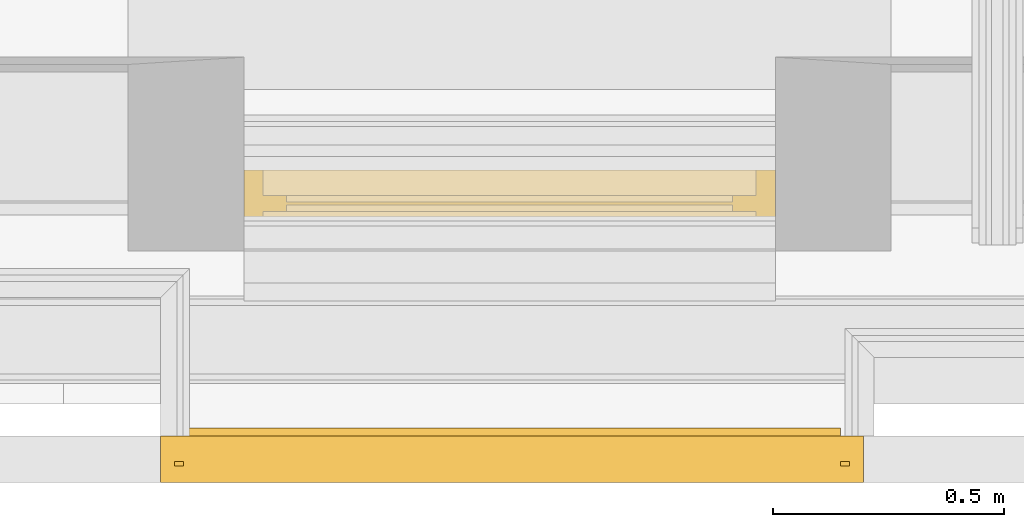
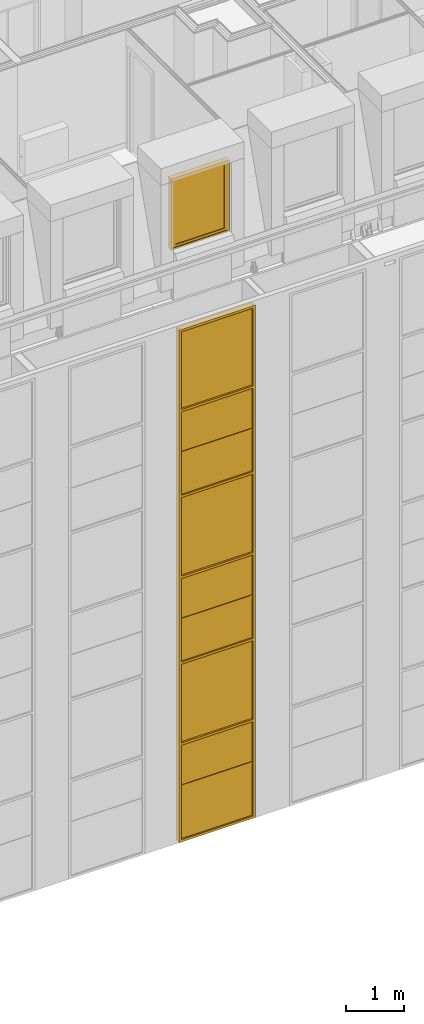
# One storey, part 99 of 169: 1 curtain wall, 1 window.
"""IFC2X3 building model written with IfcOpenShell, lengths in metres."""

from ifc_helpers import new_model, entity, si_unit, converted_unit, derived_unit, money_unit, direction, frame, origin_with_axes, place, context, subcontext, project, spatial, faceted_brep, material, type_object, element, save


model = new_model("IFC2X3")

# Units and contexts
model_context = context("Model", 3, precision=1e-05, world=origin_with_axes(), true_north=direction((0.0, 1.0)))
body_context = subcontext(model_context, "Body", "Model", "MODEL_VIEW", scale=1.0)
ifc_project = project(units=[si_unit("LENGTHUNIT", "METRE"), si_unit("AREAUNIT", "SQUARE_METRE"), si_unit("VOLUMEUNIT", "CUBIC_METRE"), si_unit("ABSORBEDDOSEUNIT", "GRAY"), si_unit("AMOUNTOFSUBSTANCEUNIT", "MOLE"), si_unit("DOSEEQUIVALENTUNIT", "SIEVERT"), si_unit("ELECTRICCAPACITANCEUNIT", "FARAD"), si_unit("ELECTRICCHARGEUNIT", "COULOMB"), si_unit("ELECTRICCONDUCTANCEUNIT", "SIEMENS"), si_unit("ELECTRICCURRENTUNIT", "AMPERE"), si_unit("ELECTRICRESISTANCEUNIT", "OHM"), si_unit("ELECTRICVOLTAGEUNIT", "VOLT"), si_unit("ENERGYUNIT", "JOULE"), si_unit("FORCEUNIT", "NEWTON"), si_unit("FREQUENCYUNIT", "HERTZ"), si_unit("ILLUMINANCEUNIT", "LUX"), si_unit("INDUCTANCEUNIT", "HENRY"), si_unit("LUMINOUSFLUXUNIT", "LUMEN"), si_unit("LUMINOUSINTENSITYUNIT", "CANDELA"), si_unit("MAGNETICFLUXDENSITYUNIT", "TESLA"), si_unit("MAGNETICFLUXUNIT", "WEBER"), si_unit("MASSUNIT", "GRAM"), converted_unit("PLANEANGLEUNIT", "degree", entity("IfcReal", 0.0174532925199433), si_unit("PLANEANGLEUNIT", "RADIAN"), dimensions=[0, 0, 0, 0, 0, 0, 0]), si_unit("POWERUNIT", "WATT"), si_unit("PRESSUREUNIT", "PASCAL"), si_unit("RADIOACTIVITYUNIT", "BECQUEREL"), si_unit("SOLIDANGLEUNIT", "STERADIAN"), si_unit("THERMODYNAMICTEMPERATUREUNIT", "KELVIN"), si_unit("TIMEUNIT", "SECOND"), derived_unit("ACCELERATIONUNIT", [(si_unit("LENGTHUNIT", "METRE"), 1), (si_unit("TIMEUNIT", "SECOND"), -2)]), derived_unit("ANGULARVELOCITYUNIT", [(converted_unit("PLANEANGLEUNIT", "degree", entity("IfcReal", 0.0174532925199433), si_unit("PLANEANGLEUNIT", "RADIAN"), dimensions=[0, 0, 0, 0, 0, 0, 0]), 1), (si_unit("TIMEUNIT", "SECOND"), -1)]), derived_unit("CURVATUREUNIT", [(converted_unit("PLANEANGLEUNIT", "degree", entity("IfcReal", 0.0174532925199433), si_unit("PLANEANGLEUNIT", "RADIAN"), dimensions=[0, 0, 0, 0, 0, 0, 0]), 1), (si_unit("LENGTHUNIT", "METRE"), -1)]), derived_unit("DYNAMICVISCOSITYUNIT", [(si_unit("PRESSUREUNIT", "PASCAL"), 1), (si_unit("TIMEUNIT", "SECOND"), 1)]), derived_unit("HEATFLUXDENSITYUNIT", [(si_unit("POWERUNIT", "WATT"), 1), (si_unit("LENGTHUNIT", "METRE"), -2)]), derived_unit("HEATINGVALUEUNIT", [(si_unit("ENERGYUNIT", "JOULE"), 1), (si_unit("MASSUNIT", "GRAM"), -1)]), derived_unit("INTEGERCOUNTRATEUNIT", [(si_unit("TIMEUNIT", "SECOND"), -1)]), derived_unit("IONCONCENTRATIONUNIT", [(si_unit("MASSUNIT", "GRAM"), 1), (si_unit("VOLUMEUNIT", "CUBIC_METRE"), -1)]), derived_unit("ISOTHERMALMOISTURECAPACITYUNIT", [(si_unit("VOLUMEUNIT", "CUBIC_METRE"), 1), (si_unit("MASSUNIT", "GRAM"), -1)]), derived_unit("KINEMATICVISCOSITYUNIT", [(si_unit("AREAUNIT", "SQUARE_METRE"), 1), (si_unit("TIMEUNIT", "SECOND"), -1)]), derived_unit("LINEARFORCEUNIT", [(si_unit("FORCEUNIT", "NEWTON"), 1), (si_unit("LENGTHUNIT", "METRE"), -1)]), derived_unit("LINEARMOMENTUNIT", [(si_unit("FORCEUNIT", "NEWTON"), 1), (si_unit("LENGTHUNIT", "METRE"), -1)]), derived_unit("LINEARSTIFFNESSUNIT", [(si_unit("FORCEUNIT", "NEWTON"), 1), (si_unit("LENGTHUNIT", "METRE"), -1)]), derived_unit("LINEARVELOCITYUNIT", [(si_unit("LENGTHUNIT", "METRE"), 1), (si_unit("TIMEUNIT", "SECOND"), -1)]), derived_unit("LUMINOUSINTENSITYDISTRIBUTIONUNIT", [(si_unit("LUMINOUSINTENSITYUNIT", "CANDELA"), 1), (si_unit("LUMINOUSFLUXUNIT", "LUMEN"), -1)]), derived_unit("MASSDENSITYUNIT", [(si_unit("MASSUNIT", "GRAM"), 1), (si_unit("VOLUMEUNIT", "CUBIC_METRE"), -1)]), derived_unit("MASSFLOWRATEUNIT", [(si_unit("MASSUNIT", "GRAM"), 1), (si_unit("TIMEUNIT", "SECOND"), -1)]), derived_unit("MASSPERLENGTHUNIT", [(si_unit("MASSUNIT", "GRAM"), 1), (si_unit("LENGTHUNIT", "METRE"), -1)]), derived_unit("MODULUSOFELASTICITYUNIT", [(si_unit("FORCEUNIT", "NEWTON"), 1), (si_unit("AREAUNIT", "SQUARE_METRE"), -1)]), derived_unit("MODULUSOFLINEARSUBGRADEREACTIONUNIT", [(si_unit("FORCEUNIT", "NEWTON"), 1), (si_unit("LENGTHUNIT", "METRE"), -2)]), derived_unit("MODULUSOFROTATIONALSUBGRADEREACTIONUNIT", [(si_unit("FORCEUNIT", "NEWTON"), 1), (si_unit("LENGTHUNIT", "METRE"), 1)]), derived_unit("MODULUSOFSUBGRADEREACTIONUNIT", [(si_unit("FORCEUNIT", "NEWTON"), 1), (si_unit("VOLUMEUNIT", "CUBIC_METRE"), -1)]), derived_unit("MOISTUREDIFFUSIVITYUNIT", [(si_unit("VOLUMEUNIT", "CUBIC_METRE"), 1), (si_unit("TIMEUNIT", "SECOND"), -1)]), derived_unit("MOLECULARWEIGHTUNIT", [(si_unit("MASSUNIT", "GRAM"), 1), (si_unit("AMOUNTOFSUBSTANCEUNIT", "MOLE"), -1)]), derived_unit("PLANARFORCEUNIT", [(si_unit("FORCEUNIT", "NEWTON"), 1), (si_unit("LENGTHUNIT", "METRE"), -2)]), derived_unit("ROTATIONALFREQUENCYUNIT", [(si_unit("TIMEUNIT", "SECOND"), -1)]), derived_unit("ROTATIONALMASSUNIT", [(si_unit("MASSUNIT", "GRAM"), 1), (si_unit("LENGTHUNIT", "METRE"), 2)]), derived_unit("ROTATIONALSTIFFNESSUNIT", [(si_unit("FORCEUNIT", "NEWTON"), 1), (si_unit("LENGTHUNIT", "METRE"), 1), (converted_unit("PLANEANGLEUNIT", "degree", entity("IfcReal", 0.0174532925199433), si_unit("PLANEANGLEUNIT", "RADIAN"), dimensions=[0, 0, 0, 0, 0, 0, 0]), -1)]), derived_unit("SECTIONAREAINTEGRALUNIT", [(si_unit("LENGTHUNIT", "METRE"), 5)]), derived_unit("SECTIONMODULUSUNIT", [(si_unit("LENGTHUNIT", "METRE"), 3)]), derived_unit("SHEARMODULUSUNIT", [(si_unit("FORCEUNIT", "NEWTON"), 1), (si_unit("AREAUNIT", "SQUARE_METRE"), -1)]), derived_unit("SOUNDPOWERUNIT", [(si_unit("ENERGYUNIT", "JOULE"), 1), (si_unit("TIMEUNIT", "SECOND"), -1)]), derived_unit("SPECIFICHEATCAPACITYUNIT", [(si_unit("FORCEUNIT", "NEWTON"), 1), (si_unit("MASSUNIT", "GRAM"), -1), (si_unit("THERMODYNAMICTEMPERATUREUNIT", "KELVIN"), -1)]), derived_unit("TEMPERATUREGRADIENTUNIT", [(si_unit("THERMODYNAMICTEMPERATUREUNIT", "KELVIN"), 1), (si_unit("LENGTHUNIT", "METRE"), -1)]), derived_unit("THERMALADMITTANCEUNIT", [(si_unit("POWERUNIT", "WATT"), 1), (si_unit("AREAUNIT", "SQUARE_METRE"), -1), (si_unit("THERMODYNAMICTEMPERATUREUNIT", "KELVIN"), -1)]), derived_unit("THERMALCONDUCTANCEUNIT", [(si_unit("POWERUNIT", "WATT"), 1), (si_unit("LENGTHUNIT", "METRE"), -1), (si_unit("THERMODYNAMICTEMPERATUREUNIT", "KELVIN"), -1)]), derived_unit("THERMALEXPANSIONCOEFFICIENTUNIT", [(si_unit("THERMODYNAMICTEMPERATUREUNIT", "KELVIN"), -1)]), derived_unit("THERMALRESISTANCEUNIT", [(si_unit("AREAUNIT", "SQUARE_METRE"), 1), (si_unit("POWERUNIT", "WATT"), -1)]), derived_unit("THERMALTRANSMITTANCEUNIT", [(si_unit("POWERUNIT", "WATT"), 1), (si_unit("AREAUNIT", "SQUARE_METRE"), -1), (si_unit("THERMODYNAMICTEMPERATUREUNIT", "KELVIN"), -1)]), derived_unit("TORQUEUNIT", [(si_unit("FORCEUNIT", "NEWTON"), 1), (si_unit("LENGTHUNIT", "METRE"), 1)]), derived_unit("VAPORPERMEABILITYUNIT", [(si_unit("MASSUNIT", "GRAM"), 1), (si_unit("TIMEUNIT", "SECOND"), -1)]), derived_unit("VOLUMETRICFLOWRATEUNIT", [(si_unit("VOLUMEUNIT", "CUBIC_METRE"), 1), (si_unit("TIMEUNIT", "SECOND"), -1)]), derived_unit("WARPINGCONSTANTUNIT", [(si_unit("LENGTHUNIT", "METRE"), 6)]), derived_unit("WARPINGMOMENTUNIT", [(si_unit("FORCEUNIT", "NEWTON"), 1), (si_unit("LENGTHUNIT", "METRE"), 2)]), money_unit("GBP")], contexts=[model_context])

# Site, building, storey
site_placement = place(None, origin_with_axes())
site = spatial("IfcSite", under=ifc_project, at=site_placement, Name="Site", CompositionType="ELEMENT")
building_placement = place(site_placement, origin_with_axes())
building = spatial("IfcBuilding", under=site, at=building_placement, Name="Building01", CompositionType="ELEMENT")
storey_placement = place(building_placement, frame((0.0, 0.0, 5.15), z_axis=(0.0, 0.0, 1.0), x_axis=(1.0, 0.0, 0.0)))
storey = spatial("IfcBuildingStorey", under=building, at=storey_placement, Name="1F", CompositionType="ELEMENT", Elevation=5.15)

# Curtain wall
ifc_material_1 = material(Name="A-CurtainWall_Frame")
curtain_wall_type = type_object("IfcCurtainWallType", Name="Pattern - Maximum Spacing", PredefinedType="NOTDEFINED")
curtain_wall_placement = place(storey_placement, frame((0.0, 0.0, -5.15), z_axis=(0.0, 0.0, 1.0), x_axis=(1.0, 0.0, 0.0)))
element("IfcCurtainWall", 1, at=curtain_wall_placement, inside=storey, type_object=curtain_wall_type, material=ifc_material_1, Name="20", ObjectType="Pattern - Maximum Spacing", context=body_context, shape_type="Brep", body=[
    faceted_brep([(9.49, 0.05, 4.0), (9.49, 0.03, 4.0), (9.49, 0.03, 5.118945), (9.49, 0.05, 5.118945), (10.95, 0.05, 4.0), (10.95, 0.03, 4.0), (10.95, 0.05, 5.118945), (10.95, 0.03, 5.118945)], [[[0, 1, 2, 3]], [[4, 5, 1, 0]], [[6, 7, 5, 4]], [[3, 2, 7, 6]], [[1, 5, 7, 2]], [[3, 6, 4, 0]]]),
    faceted_brep([(9.51, 0.045, 3.97), (9.49, 0.045, 3.97), (9.49, 0.035, 3.97), (9.51, 0.035, 3.97), (9.51, 0.0, 3.97), (9.46, 0.0, 3.97), (9.46, 0.1, 3.97), (9.51, 0.1, 3.97), (9.51, 0.1, 5.123945), (9.51, 0.045, 5.123945), (9.49, 0.045, 5.123945), (9.49, 0.035, 5.123945), (9.51, 0.035, 5.123945), (9.51, 0.0, 5.123945), (9.46, 0.0, 5.123945), (9.46, 0.1, 5.123945)], [[[0, 1, 2, 3, 4, 5, 6, 7]], [[7, 8, 9, 0]], [[0, 9, 10, 1]], [[1, 10, 11, 2]], [[2, 11, 12, 3]], [[3, 12, 13, 4]], [[4, 13, 14, 5]], [[5, 14, 15, 6]], [[6, 15, 8, 7]]]),
    faceted_brep([(10.93, 0.045, 4.0), (10.93, 0.035, 4.0), (10.93, 0.035, 4.02), (10.93, 0.0, 4.02), (10.93, 0.0, 3.97), (10.93, 0.1, 3.97), (10.93, 0.1, 4.02), (10.93, 0.045, 4.02), (9.51, 0.045, 4.02), (9.51, 0.045, 4.0), (9.51, 0.035, 4.0), (9.51, 0.035, 4.02), (9.51, 0.0, 4.02), (9.51, 0.0, 3.97), (9.51, 0.1, 3.97), (9.51, 0.1, 4.02)], [[[0, 1, 2, 3, 4, 5, 6, 7]], [[7, 8, 9, 0]], [[0, 9, 10, 1]], [[1, 10, 11, 2]], [[2, 11, 12, 3]], [[3, 12, 13, 4]], [[4, 13, 14, 5]], [[5, 14, 15, 6]], [[6, 15, 8, 7]], [[8, 15, 14, 13, 12, 11, 10, 9]]]),
    faceted_brep([(10.93, 0.045, 3.97), (10.93, 0.045, 5.123945), (10.93, 0.1, 5.123945), (10.93, 0.1, 3.97), (10.95, 0.045, 3.97), (10.95, 0.045, 5.123945), (10.95, 0.035, 3.97), (10.95, 0.035, 5.123945), (10.93, 0.035, 3.97), (10.93, 0.035, 5.123945), (10.93, 0.0, 3.97), (10.93, 0.0, 5.123945), (10.98, 0.0, 3.97), (10.98, 0.0, 5.123945), (10.98, 0.1, 3.97), (10.98, 0.1, 5.123945)], [[[0, 1, 2, 3]], [[4, 5, 1, 0]], [[6, 7, 5, 4]], [[8, 9, 7, 6]], [[10, 11, 9, 8]], [[12, 13, 11, 10]], [[14, 15, 13, 12]], [[3, 2, 15, 14]], [[14, 12, 10, 8, 6, 4, 0, 3]]]),
    faceted_brep([(9.51, 0.0625, 5.118945), (9.51, 0.0525, 5.118945), (9.51, 0.0525, 5.098945), (9.51, 0.0175, 5.098945), (9.51, 0.0175, 5.148945), (9.51, 0.0525, 5.148945), (9.51, 0.0525, 5.128945), (9.51, 0.0625, 5.128945), (9.51, 0.0625, 5.148945), (9.51, 0.1175, 5.148945), (9.51, 0.1175, 5.098945), (9.51, 0.0625, 5.098945), (10.93, 0.0625, 5.098945), (10.93, 0.0625, 5.118945), (10.93, 0.0525, 5.118945), (10.93, 0.0525, 5.098945), (10.93, 0.0175, 5.098945), (10.93, 0.0175, 5.148945), (10.93, 0.0525, 5.148945), (10.93, 0.0625, 5.128945), (10.93, 0.0625, 5.148945), (10.93, 0.0525, 5.128945), (10.93, 0.1175, 5.098945), (10.93, 0.1175, 5.148945)], [[[0, 1, 2, 3, 4, 5, 6, 7, 8, 9, 10, 11]], [[11, 12, 13, 0]], [[0, 13, 14, 1]], [[1, 14, 15, 2]], [[2, 15, 16, 3]], [[3, 16, 17, 4]], [[4, 17, 18, 5]], [[7, 19, 20, 8]], [[6, 21, 19, 7]], [[5, 18, 21, 6]], [[10, 22, 12, 11]], [[9, 23, 22, 10]], [[8, 20, 23, 9]], [[20, 19, 21, 18, 17, 16, 15, 14, 13, 12, 22, 23]]]),
    faceted_brep([(9.49, 0.05, 5.128945), (9.49, 0.03, 5.128945), (9.49, 0.03, 6.018105), (9.49, 0.05, 6.018105), (10.95, 0.05, 5.128945), (10.95, 0.03, 5.128945), (10.95, 0.05, 6.018105), (10.95, 0.03, 6.018105)], [[[0, 1, 2, 3]], [[4, 5, 1, 0]], [[6, 7, 5, 4]], [[3, 2, 7, 6]], [[1, 5, 7, 2]], [[3, 6, 4, 0]]]),
    faceted_brep([(9.46, 0.1, 6.023105), (9.46, 0.1, 5.123945), (9.46, 0.0, 5.123945), (9.46, 0.0, 6.023105), (9.51, 0.1, 6.023105), (9.51, 0.1, 5.123945), (9.51, 0.045, 6.023105), (9.51, 0.045, 5.123945), (9.49, 0.045, 6.023105), (9.49, 0.045, 5.123945), (9.49, 0.035, 6.023105), (9.49, 0.035, 5.123945), (9.51, 0.035, 6.023105), (9.51, 0.035, 5.123945), (9.51, 0.0, 6.023105), (9.51, 0.0, 5.123945)], [[[0, 1, 2, 3]], [[4, 5, 1, 0]], [[6, 7, 5, 4]], [[8, 9, 7, 6]], [[10, 11, 9, 8]], [[12, 13, 11, 10]], [[14, 15, 13, 12]], [[3, 2, 15, 14]]]),
    faceted_brep([(10.93, 0.045, 5.123945), (10.93, 0.045, 6.023105), (10.93, 0.1, 6.023105), (10.93, 0.1, 5.123945), (10.95, 0.045, 5.123945), (10.95, 0.045, 6.023105), (10.95, 0.035, 5.123945), (10.95, 0.035, 6.023105), (10.93, 0.035, 5.123945), (10.93, 0.035, 6.023105), (10.93, 0.0, 5.123945), (10.93, 0.0, 6.023105), (10.98, 0.0, 5.123945), (10.98, 0.0, 6.023105), (10.98, 0.1, 5.123945), (10.98, 0.1, 6.023105)], [[[0, 1, 2, 3]], [[4, 5, 1, 0]], [[6, 7, 5, 4]], [[8, 9, 7, 6]], [[10, 11, 9, 8]], [[12, 13, 11, 10]], [[14, 15, 13, 12]], [[3, 2, 15, 14]]]),
    faceted_brep([(9.51, 0.045, 6.018105), (9.51, 0.035, 6.018105), (9.51, 0.035, 5.998105), (9.51, 0.0, 5.998105), (9.51, 0.0, 6.048105), (9.51, 0.035, 6.048105), (9.51, 0.035, 6.028105), (9.51, 0.045, 6.028105), (9.51, 0.045, 6.048105), (9.51, 0.1, 6.048105), (9.51, 0.1, 5.998105), (9.51, 0.045, 5.998105), (10.93, 0.045, 5.998105), (10.93, 0.045, 6.018105), (10.93, 0.035, 6.018105), (10.93, 0.035, 5.998105), (10.93, 0.0, 5.998105), (10.93, 0.0, 6.048105), (10.93, 0.035, 6.048105), (10.93, 0.045, 6.028105), (10.93, 0.045, 6.048105), (10.93, 0.035, 6.028105), (10.93, 0.1, 5.998105), (10.93, 0.1, 6.048105)], [[[0, 1, 2, 3, 4, 5, 6, 7, 8, 9, 10, 11]], [[11, 12, 13, 0]], [[0, 13, 14, 1]], [[1, 14, 15, 2]], [[2, 15, 16, 3]], [[3, 16, 17, 4]], [[4, 17, 18, 5]], [[7, 19, 20, 8]], [[6, 21, 19, 7]], [[5, 18, 21, 6]], [[10, 22, 12, 11]], [[9, 23, 22, 10]], [[8, 20, 23, 9]], [[20, 19, 21, 18, 17, 16, 15, 14, 13, 12, 22, 23]]]),
    faceted_brep([(9.49, 0.045, 6.028105), (9.49, 0.035, 6.028105), (9.49, 0.035, 7.716517), (9.49, 0.045, 7.716517), (10.95, 0.045, 6.028105), (10.95, 0.035, 6.028105), (10.95, 0.045, 7.716517), (10.95, 0.035, 7.716517)], [[[0, 1, 2, 3]], [[4, 5, 1, 0]], [[6, 7, 5, 4]], [[3, 2, 7, 6]], [[1, 5, 7, 2]], [[3, 6, 4, 0]]]),
    faceted_brep([(9.46, 0.1, 7.721517), (9.46, 0.1, 6.023105), (9.46, 0.0, 6.023105), (9.46, 0.0, 7.721517), (9.51, 0.1, 7.721517), (9.51, 0.1, 6.023105), (9.51, 0.045, 7.721517), (9.51, 0.045, 6.023105), (9.49, 0.045, 7.721517), (9.49, 0.045, 6.023105), (9.49, 0.035, 7.721517), (9.49, 0.035, 6.023105), (9.51, 0.035, 7.721517), (9.51, 0.035, 6.023105), (9.51, 0.0, 7.721517), (9.51, 0.0, 6.023105)], [[[0, 1, 2, 3]], [[4, 5, 1, 0]], [[6, 7, 5, 4]], [[8, 9, 7, 6]], [[10, 11, 9, 8]], [[12, 13, 11, 10]], [[14, 15, 13, 12]], [[3, 2, 15, 14]]]),
    faceted_brep([(10.93, 0.045, 6.023105), (10.93, 0.045, 7.721517), (10.93, 0.1, 7.721517), (10.93, 0.1, 6.023105), (10.95, 0.045, 6.023105), (10.95, 0.045, 7.721517), (10.95, 0.035, 6.023105), (10.95, 0.035, 7.721517), (10.93, 0.035, 6.023105), (10.93, 0.035, 7.721517), (10.93, 0.0, 6.023105), (10.93, 0.0, 7.721517), (10.98, 0.0, 6.023105), (10.98, 0.0, 7.721517), (10.98, 0.1, 6.023105), (10.98, 0.1, 7.721517)], [[[0, 1, 2, 3]], [[4, 5, 1, 0]], [[6, 7, 5, 4]], [[8, 9, 7, 6]], [[10, 11, 9, 8]], [[12, 13, 11, 10]], [[14, 15, 13, 12]], [[3, 2, 15, 14]]]),
    faceted_brep([(9.51, 0.045, 7.716517), (9.51, 0.035, 7.716517), (9.51, 0.035, 7.696517), (9.51, 0.0, 7.696517), (9.51, 0.0, 7.746517), (9.51, 0.035, 7.746517), (9.51, 0.035, 7.726517), (9.51, 0.045, 7.726517), (9.51, 0.045, 7.746517), (9.51, 0.1, 7.746517), (9.51, 0.1, 7.696517), (9.51, 0.045, 7.696517), (10.93, 0.045, 7.696517), (10.93, 0.045, 7.716517), (10.93, 0.035, 7.716517), (10.93, 0.035, 7.696517), (10.93, 0.0, 7.696517), (10.93, 0.0, 7.746517), (10.93, 0.035, 7.746517), (10.93, 0.045, 7.726517), (10.93, 0.045, 7.746517), (10.93, 0.035, 7.726517), (10.93, 0.1, 7.696517), (10.93, 0.1, 7.746517)], [[[0, 1, 2, 3, 4, 5, 6, 7, 8, 9, 10, 11]], [[11, 12, 13, 0]], [[0, 13, 14, 1]], [[1, 14, 15, 2]], [[2, 15, 16, 3]], [[3, 16, 17, 4]], [[4, 17, 18, 5]], [[7, 19, 20, 8]], [[6, 21, 19, 7]], [[5, 18, 21, 6]], [[10, 22, 12, 11]], [[9, 23, 22, 10]], [[8, 20, 23, 9]], [[20, 19, 21, 18, 17, 16, 15, 14, 13, 12, 22, 23]]]),
    faceted_brep([(9.49, 0.05, 7.726517), (9.49, 0.03, 7.726517), (9.49, 0.03, 8.615677), (9.49, 0.05, 8.615677), (10.95, 0.05, 7.726517), (10.95, 0.03, 7.726517), (10.95, 0.05, 8.615677), (10.95, 0.03, 8.615677)], [[[0, 1, 2, 3]], [[4, 5, 1, 0]], [[6, 7, 5, 4]], [[3, 2, 7, 6]], [[1, 5, 7, 2]], [[3, 6, 4, 0]]]),
    faceted_brep([(9.46, 0.1, 8.620677), (9.46, 0.1, 7.721517), (9.46, 0.0, 7.721517), (9.46, 0.0, 8.620677), (9.51, 0.1, 8.620677), (9.51, 0.1, 7.721517), (9.51, 0.045, 8.620677), (9.51, 0.045, 7.721517), (9.49, 0.045, 8.620677), (9.49, 0.045, 7.721517), (9.49, 0.035, 8.620677), (9.49, 0.035, 7.721517), (9.51, 0.035, 8.620677), (9.51, 0.035, 7.721517), (9.51, 0.0, 8.620677), (9.51, 0.0, 7.721517)], [[[0, 1, 2, 3]], [[4, 5, 1, 0]], [[6, 7, 5, 4]], [[8, 9, 7, 6]], [[10, 11, 9, 8]], [[12, 13, 11, 10]], [[14, 15, 13, 12]], [[3, 2, 15, 14]]]),
    faceted_brep([(10.93, 0.045, 7.721517), (10.93, 0.045, 8.620677), (10.93, 0.1, 8.620677), (10.93, 0.1, 7.721517), (10.95, 0.045, 7.721517), (10.95, 0.045, 8.620677), (10.95, 0.035, 7.721517), (10.95, 0.035, 8.620677), (10.93, 0.035, 7.721517), (10.93, 0.035, 8.620677), (10.93, 0.0, 7.721517), (10.93, 0.0, 8.620677), (10.98, 0.0, 7.721517), (10.98, 0.0, 8.620677), (10.98, 0.1, 7.721517), (10.98, 0.1, 8.620677)], [[[0, 1, 2, 3]], [[4, 5, 1, 0]], [[6, 7, 5, 4]], [[8, 9, 7, 6]], [[10, 11, 9, 8]], [[12, 13, 11, 10]], [[14, 15, 13, 12]], [[3, 2, 15, 14]]]),
    faceted_brep([(9.51, 0.0625, 8.615677), (9.51, 0.0525, 8.615677), (9.51, 0.0525, 8.595677), (9.51, 0.0175, 8.595677), (9.51, 0.0175, 8.645677), (9.51, 0.0525, 8.645677), (9.51, 0.0525, 8.625677), (9.51, 0.0625, 8.625677), (9.51, 0.0625, 8.645677), (9.51, 0.1175, 8.645677), (9.51, 0.1175, 8.595677), (9.51, 0.0625, 8.595677), (10.93, 0.0625, 8.595677), (10.93, 0.0625, 8.615677), (10.93, 0.0525, 8.615677), (10.93, 0.0525, 8.595677), (10.93, 0.0175, 8.595677), (10.93, 0.0175, 8.645677), (10.93, 0.0525, 8.645677), (10.93, 0.0625, 8.625677), (10.93, 0.0625, 8.645677), (10.93, 0.0525, 8.625677), (10.93, 0.1175, 8.595677), (10.93, 0.1175, 8.645677)], [[[0, 1, 2, 3, 4, 5, 6, 7, 8, 9, 10, 11]], [[11, 12, 13, 0]], [[0, 13, 14, 1]], [[1, 14, 15, 2]], [[2, 15, 16, 3]], [[3, 16, 17, 4]], [[4, 17, 18, 5]], [[7, 19, 20, 8]], [[6, 21, 19, 7]], [[5, 18, 21, 6]], [[10, 22, 12, 11]], [[9, 23, 22, 10]], [[8, 20, 23, 9]], [[20, 19, 21, 18, 17, 16, 15, 14, 13, 12, 22, 23]]]),
    faceted_brep([(9.49, 0.05, 8.625677), (9.49, 0.03, 8.625677), (9.49, 0.03, 9.514837), (9.49, 0.05, 9.514837), (10.95, 0.05, 8.625677), (10.95, 0.03, 8.625677), (10.95, 0.05, 9.514837), (10.95, 0.03, 9.514837)], [[[0, 1, 2, 3]], [[4, 5, 1, 0]], [[6, 7, 5, 4]], [[3, 2, 7, 6]], [[1, 5, 7, 2]], [[3, 6, 4, 0]]]),
    faceted_brep([(9.46, 0.1, 9.519837), (9.46, 0.1, 8.620677), (9.46, 0.0, 8.620677), (9.46, 0.0, 9.519837), (9.51, 0.1, 9.519837), (9.51, 0.1, 8.620677), (9.51, 0.045, 9.519837), (9.51, 0.045, 8.620677), (9.49, 0.045, 9.519837), (9.49, 0.045, 8.620677), (9.49, 0.035, 9.519837), (9.49, 0.035, 8.620677), (9.51, 0.035, 9.519837), (9.51, 0.035, 8.620677), (9.51, 0.0, 9.519837), (9.51, 0.0, 8.620677)], [[[0, 1, 2, 3]], [[4, 5, 1, 0]], [[6, 7, 5, 4]], [[8, 9, 7, 6]], [[10, 11, 9, 8]], [[12, 13, 11, 10]], [[14, 15, 13, 12]], [[3, 2, 15, 14]]]),
    faceted_brep([(10.93, 0.045, 8.620677), (10.93, 0.045, 9.519837), (10.93, 0.1, 9.519837), (10.93, 0.1, 8.620677), (10.95, 0.045, 8.620677), (10.95, 0.045, 9.519837), (10.95, 0.035, 8.620677), (10.95, 0.035, 9.519837), (10.93, 0.035, 8.620677), (10.93, 0.035, 9.519837), (10.93, 0.0, 8.620677), (10.93, 0.0, 9.519837), (10.98, 0.0, 8.620677), (10.98, 0.0, 9.519837), (10.98, 0.1, 8.620677), (10.98, 0.1, 9.519837)], [[[0, 1, 2, 3]], [[4, 5, 1, 0]], [[6, 7, 5, 4]], [[8, 9, 7, 6]], [[10, 11, 9, 8]], [[12, 13, 11, 10]], [[14, 15, 13, 12]], [[3, 2, 15, 14]]]),
    faceted_brep([(9.51, 0.045, 9.514837), (9.51, 0.035, 9.514837), (9.51, 0.035, 9.494837), (9.51, 0.0, 9.494837), (9.51, 0.0, 9.544837), (9.51, 0.035, 9.544837), (9.51, 0.035, 9.524837), (9.51, 0.045, 9.524837), (9.51, 0.045, 9.544837), (9.51, 0.1, 9.544837), (9.51, 0.1, 9.494837), (9.51, 0.045, 9.494837), (10.93, 0.045, 9.494837), (10.93, 0.045, 9.514837), (10.93, 0.035, 9.514837), (10.93, 0.035, 9.494837), (10.93, 0.0, 9.494837), (10.93, 0.0, 9.544837), (10.93, 0.035, 9.544837), (10.93, 0.045, 9.524837), (10.93, 0.045, 9.544837), (10.93, 0.035, 9.524837), (10.93, 0.1, 9.494837), (10.93, 0.1, 9.544837)], [[[0, 1, 2, 3, 4, 5, 6, 7, 8, 9, 10, 11]], [[11, 12, 13, 0]], [[0, 13, 14, 1]], [[1, 14, 15, 2]], [[2, 15, 16, 3]], [[3, 16, 17, 4]], [[4, 17, 18, 5]], [[7, 19, 20, 8]], [[6, 21, 19, 7]], [[5, 18, 21, 6]], [[10, 22, 12, 11]], [[9, 23, 22, 10]], [[8, 20, 23, 9]], [[20, 19, 21, 18, 17, 16, 15, 14, 13, 12, 22, 23]]]),
    faceted_brep([(9.49, 0.045, 9.524837), (9.49, 0.035, 9.524837), (9.49, 0.035, 11.213249), (9.49, 0.045, 11.213249), (10.95, 0.045, 9.524837), (10.95, 0.035, 9.524837), (10.95, 0.045, 11.213249), (10.95, 0.035, 11.213249)], [[[0, 1, 2, 3]], [[4, 5, 1, 0]], [[6, 7, 5, 4]], [[3, 2, 7, 6]], [[1, 5, 7, 2]], [[3, 6, 4, 0]]]),
    faceted_brep([(9.46, 0.1, 11.218249), (9.46, 0.1, 9.519837), (9.46, 0.0, 9.519837), (9.46, 0.0, 11.218249), (9.51, 0.1, 11.218249), (9.51, 0.1, 9.519837), (9.51, 0.045, 11.218249), (9.51, 0.045, 9.519837), (9.49, 0.045, 11.218249), (9.49, 0.045, 9.519837), (9.49, 0.035, 11.218249), (9.49, 0.035, 9.519837), (9.51, 0.035, 11.218249), (9.51, 0.035, 9.519837), (9.51, 0.0, 11.218249), (9.51, 0.0, 9.519837)], [[[0, 1, 2, 3]], [[4, 5, 1, 0]], [[6, 7, 5, 4]], [[8, 9, 7, 6]], [[10, 11, 9, 8]], [[12, 13, 11, 10]], [[14, 15, 13, 12]], [[3, 2, 15, 14]]]),
    faceted_brep([(10.93, 0.045, 9.519837), (10.93, 0.045, 11.218249), (10.93, 0.1, 11.218249), (10.93, 0.1, 9.519837), (10.95, 0.045, 9.519837), (10.95, 0.045, 11.218249), (10.95, 0.035, 9.519837), (10.95, 0.035, 11.218249), (10.93, 0.035, 9.519837), (10.93, 0.035, 11.218249), (10.93, 0.0, 9.519837), (10.93, 0.0, 11.218249), (10.98, 0.0, 9.519837), (10.98, 0.0, 11.218249), (10.98, 0.1, 9.519837), (10.98, 0.1, 11.218249)], [[[0, 1, 2, 3]], [[4, 5, 1, 0]], [[6, 7, 5, 4]], [[8, 9, 7, 6]], [[10, 11, 9, 8]], [[12, 13, 11, 10]], [[14, 15, 13, 12]], [[3, 2, 15, 14]]]),
    faceted_brep([(9.51, 0.045, 11.213249), (9.51, 0.035, 11.213249), (9.51, 0.035, 11.193249), (9.51, 0.0, 11.193249), (9.51, 0.0, 11.243249), (9.51, 0.035, 11.243249), (9.51, 0.035, 11.223249), (9.51, 0.045, 11.223249), (9.51, 0.045, 11.243249), (9.51, 0.1, 11.243249), (9.51, 0.1, 11.193249), (9.51, 0.045, 11.193249), (10.93, 0.045, 11.193249), (10.93, 0.045, 11.213249), (10.93, 0.035, 11.213249), (10.93, 0.035, 11.193249), (10.93, 0.0, 11.193249), (10.93, 0.0, 11.243249), (10.93, 0.035, 11.243249), (10.93, 0.045, 11.223249), (10.93, 0.045, 11.243249), (10.93, 0.035, 11.223249), (10.93, 0.1, 11.193249), (10.93, 0.1, 11.243249)], [[[0, 1, 2, 3, 4, 5, 6, 7, 8, 9, 10, 11]], [[11, 12, 13, 0]], [[0, 13, 14, 1]], [[1, 14, 15, 2]], [[2, 15, 16, 3]], [[3, 16, 17, 4]], [[4, 17, 18, 5]], [[7, 19, 20, 8]], [[6, 21, 19, 7]], [[5, 18, 21, 6]], [[10, 22, 12, 11]], [[9, 23, 22, 10]], [[8, 20, 23, 9]], [[20, 19, 21, 18, 17, 16, 15, 14, 13, 12, 22, 23]]]),
    faceted_brep([(9.49, 0.05, 11.223249), (9.49, 0.03, 11.223249), (9.49, 0.03, 12.112409), (9.49, 0.05, 12.112409), (10.95, 0.05, 11.223249), (10.95, 0.03, 11.223249), (10.95, 0.05, 12.112409), (10.95, 0.03, 12.112409)], [[[0, 1, 2, 3]], [[4, 5, 1, 0]], [[6, 7, 5, 4]], [[3, 2, 7, 6]], [[1, 5, 7, 2]], [[3, 6, 4, 0]]]),
    faceted_brep([(9.46, 0.1, 12.117409), (9.46, 0.1, 11.218249), (9.46, 0.0, 11.218249), (9.46, 0.0, 12.117409), (9.51, 0.1, 12.117409), (9.51, 0.1, 11.218249), (9.51, 0.045, 12.117409), (9.51, 0.045, 11.218249), (9.49, 0.045, 12.117409), (9.49, 0.045, 11.218249), (9.49, 0.035, 12.117409), (9.49, 0.035, 11.218249), (9.51, 0.035, 12.117409), (9.51, 0.035, 11.218249), (9.51, 0.0, 12.117409), (9.51, 0.0, 11.218249)], [[[0, 1, 2, 3]], [[4, 5, 1, 0]], [[6, 7, 5, 4]], [[8, 9, 7, 6]], [[10, 11, 9, 8]], [[12, 13, 11, 10]], [[14, 15, 13, 12]], [[3, 2, 15, 14]]]),
    faceted_brep([(10.93, 0.045, 11.218249), (10.93, 0.045, 12.117409), (10.93, 0.1, 12.117409), (10.93, 0.1, 11.218249), (10.95, 0.045, 11.218249), (10.95, 0.045, 12.117409), (10.95, 0.035, 11.218249), (10.95, 0.035, 12.117409), (10.93, 0.035, 11.218249), (10.93, 0.035, 12.117409), (10.93, 0.0, 11.218249), (10.93, 0.0, 12.117409), (10.98, 0.0, 11.218249), (10.98, 0.0, 12.117409), (10.98, 0.1, 11.218249), (10.98, 0.1, 12.117409)], [[[0, 1, 2, 3]], [[4, 5, 1, 0]], [[6, 7, 5, 4]], [[8, 9, 7, 6]], [[10, 11, 9, 8]], [[12, 13, 11, 10]], [[14, 15, 13, 12]], [[3, 2, 15, 14]]]),
    faceted_brep([(9.51, 0.0625, 12.112409), (9.51, 0.0525, 12.112409), (9.51, 0.0525, 12.092409), (9.51, 0.0175, 12.092409), (9.51, 0.0175, 12.142409), (9.51, 0.0525, 12.142409), (9.51, 0.0525, 12.122409), (9.51, 0.0625, 12.122409), (9.51, 0.0625, 12.142409), (9.51, 0.1175, 12.142409), (9.51, 0.1175, 12.092409), (9.51, 0.0625, 12.092409), (10.93, 0.0625, 12.092409), (10.93, 0.0625, 12.112409), (10.93, 0.0525, 12.112409), (10.93, 0.0525, 12.092409), (10.93, 0.0175, 12.092409), (10.93, 0.0175, 12.142409), (10.93, 0.0525, 12.142409), (10.93, 0.0625, 12.122409), (10.93, 0.0625, 12.142409), (10.93, 0.0525, 12.122409), (10.93, 0.1175, 12.092409), (10.93, 0.1175, 12.142409)], [[[0, 1, 2, 3, 4, 5, 6, 7, 8, 9, 10, 11]], [[11, 12, 13, 0]], [[0, 13, 14, 1]], [[1, 14, 15, 2]], [[2, 15, 16, 3]], [[3, 16, 17, 4]], [[4, 17, 18, 5]], [[7, 19, 20, 8]], [[6, 21, 19, 7]], [[5, 18, 21, 6]], [[10, 22, 12, 11]], [[9, 23, 22, 10]], [[8, 20, 23, 9]], [[20, 19, 21, 18, 17, 16, 15, 14, 13, 12, 22, 23]]]),
    faceted_brep([(10.95, 0.045, 14.69), (10.95, 0.035, 14.69), (10.95, 0.035, 13.021569), (10.95, 0.045, 13.021569), (9.49, 0.045, 14.69), (9.49, 0.035, 14.69), (9.49, 0.045, 13.021569), (9.49, 0.035, 13.021569)], [[[0, 1, 2, 3]], [[4, 5, 1, 0]], [[6, 7, 5, 4]], [[3, 2, 7, 6]], [[1, 5, 7, 2]], [[3, 6, 4, 0]]]),
    faceted_brep([(10.93, 0.045, 14.72), (10.95, 0.045, 14.72), (10.95, 0.035, 14.72), (10.93, 0.035, 14.72), (10.93, 0.0, 14.72), (10.98, 0.0, 14.72), (10.98, 0.1, 14.72), (10.93, 0.1, 14.72), (10.93, 0.1, 13.016569), (10.93, 0.045, 13.016569), (10.95, 0.045, 13.016569), (10.95, 0.035, 13.016569), (10.93, 0.035, 13.016569), (10.93, 0.0, 13.016569), (10.98, 0.0, 13.016569), (10.98, 0.1, 13.016569)], [[[0, 1, 2, 3, 4, 5, 6, 7]], [[7, 8, 9, 0]], [[0, 9, 10, 1]], [[1, 10, 11, 2]], [[2, 11, 12, 3]], [[3, 12, 13, 4]], [[4, 13, 14, 5]], [[5, 14, 15, 6]], [[6, 15, 8, 7]]]),
    faceted_brep([(9.51, 0.1, 14.67), (9.51, 0.045, 14.67), (9.51, 0.045, 14.69), (9.51, 0.035, 14.69), (9.51, 0.035, 14.67), (9.51, 0.0, 14.67), (9.51, 0.0, 14.72), (9.51, 0.1, 14.72), (10.93, 0.1, 14.72), (10.93, 0.1, 14.67), (10.93, 0.045, 14.67), (10.93, 0.045, 14.69), (10.93, 0.035, 14.69), (10.93, 0.035, 14.67), (10.93, 0.0, 14.67), (10.93, 0.0, 14.72)], [[[0, 1, 2, 3, 4, 5, 6, 7]], [[7, 8, 9, 0]], [[0, 9, 10, 1]], [[1, 10, 11, 2]], [[2, 11, 12, 3]], [[3, 12, 13, 4]], [[4, 13, 14, 5]], [[5, 14, 15, 6]], [[6, 15, 8, 7]], [[8, 15, 14, 13, 12, 11, 10, 9]]]),
    faceted_brep([(9.51, 0.045, 14.72), (9.51, 0.045, 13.016569), (9.51, 0.1, 13.016569), (9.51, 0.1, 14.72), (9.49, 0.045, 14.72), (9.49, 0.045, 13.016569), (9.49, 0.035, 14.72), (9.49, 0.035, 13.016569), (9.51, 0.035, 14.72), (9.51, 0.035, 13.016569), (9.51, 0.0, 14.72), (9.51, 0.0, 13.016569), (9.46, 0.0, 14.72), (9.46, 0.0, 13.016569), (9.46, 0.1, 14.72), (9.46, 0.1, 13.016569)], [[[0, 1, 2, 3]], [[4, 5, 1, 0]], [[6, 7, 5, 4]], [[8, 9, 7, 6]], [[10, 11, 9, 8]], [[12, 13, 11, 10]], [[14, 15, 13, 12]], [[3, 2, 15, 14]], [[14, 12, 10, 8, 6, 4, 0, 3]]]),
    faceted_brep([(10.93, 0.035, 13.011569), (10.93, 0.045, 13.011569), (10.93, 0.045, 12.991569), (10.93, 0.1, 12.991569), (10.93, 0.1, 13.041569), (10.93, 0.045, 13.041569), (10.93, 0.045, 13.021569), (10.93, 0.035, 13.021569), (10.93, 0.035, 13.041569), (10.93, 0.0, 13.041569), (10.93, 0.0, 12.991569), (10.93, 0.035, 12.991569), (9.51, 0.035, 12.991569), (9.51, 0.035, 13.011569), (9.51, 0.045, 13.011569), (9.51, 0.045, 12.991569), (9.51, 0.1, 12.991569), (9.51, 0.1, 13.041569), (9.51, 0.045, 13.041569), (9.51, 0.035, 13.021569), (9.51, 0.035, 13.041569), (9.51, 0.045, 13.021569), (9.51, 0.0, 12.991569), (9.51, 0.0, 13.041569)], [[[0, 1, 2, 3, 4, 5, 6, 7, 8, 9, 10, 11]], [[11, 12, 13, 0]], [[0, 13, 14, 1]], [[1, 14, 15, 2]], [[2, 15, 16, 3]], [[3, 16, 17, 4]], [[4, 17, 18, 5]], [[7, 19, 20, 8]], [[6, 21, 19, 7]], [[5, 18, 21, 6]], [[10, 22, 12, 11]], [[9, 23, 22, 10]], [[8, 20, 23, 9]], [[20, 19, 21, 18, 17, 16, 15, 14, 13, 12, 22, 23]]]),
    faceted_brep([(9.49, 0.05, 12.122409), (9.49, 0.03, 12.122409), (9.49, 0.03, 13.011569), (9.49, 0.05, 13.011569), (10.95, 0.05, 12.122409), (10.95, 0.03, 12.122409), (10.95, 0.05, 13.011569), (10.95, 0.03, 13.011569)], [[[0, 1, 2, 3]], [[4, 5, 1, 0]], [[6, 7, 5, 4]], [[3, 2, 7, 6]], [[1, 5, 7, 2]], [[3, 6, 4, 0]]]),
    faceted_brep([(9.46, 0.1, 13.016569), (9.46, 0.1, 12.117409), (9.46, 0.0, 12.117409), (9.46, 0.0, 13.016569), (9.51, 0.1, 13.016569), (9.51, 0.1, 12.117409), (9.51, 0.045, 13.016569), (9.51, 0.045, 12.117409), (9.49, 0.045, 13.016569), (9.49, 0.045, 12.117409), (9.49, 0.035, 13.016569), (9.49, 0.035, 12.117409), (9.51, 0.035, 13.016569), (9.51, 0.035, 12.117409), (9.51, 0.0, 13.016569), (9.51, 0.0, 12.117409)], [[[0, 1, 2, 3]], [[4, 5, 1, 0]], [[6, 7, 5, 4]], [[8, 9, 7, 6]], [[10, 11, 9, 8]], [[12, 13, 11, 10]], [[14, 15, 13, 12]], [[3, 2, 15, 14]]]),
    faceted_brep([(10.93, 0.045, 12.117409), (10.93, 0.045, 13.016569), (10.93, 0.1, 13.016569), (10.93, 0.1, 12.117409), (10.95, 0.045, 12.117409), (10.95, 0.045, 13.016569), (10.95, 0.035, 12.117409), (10.95, 0.035, 13.016569), (10.93, 0.035, 12.117409), (10.93, 0.035, 13.016569), (10.93, 0.0, 12.117409), (10.93, 0.0, 13.016569), (10.98, 0.0, 12.117409), (10.98, 0.0, 13.016569), (10.98, 0.1, 12.117409), (10.98, 0.1, 13.016569)], [[[0, 1, 2, 3]], [[4, 5, 1, 0]], [[6, 7, 5, 4]], [[8, 9, 7, 6]], [[10, 11, 9, 8]], [[12, 13, 11, 10]], [[14, 15, 13, 12]], [[3, 2, 15, 14]]]),
])

# Space
space_placement = place(storey_placement, frame((12.175, 4.189428, 9.86), z_axis=(0.0, 0.0, 1.0), x_axis=(0.0, 1.0, 0.0)))
space = spatial("IfcSpace", under=storey, at=space_placement, Name="25", CompositionType="ELEMENT", InteriorOrExteriorSpace="NOTDEFINED")

# Window
ifc_material_2 = material(Name="A_BSUK_Windows")
window_style = type_object("IfcWindowStyle", Name="A-Awning", ConstructionType="NOTDEFINED", OperationType="USERDEFINED", ParameterTakesPrecedence=False, Sizeable=False)
window_placement = place(storey_placement, frame((10.790024, 0.549939, 10.83), z_axis=(0.0, 0.0, 1.0), x_axis=(1.0, 0.0, 0.0)))
element("IfcWindow", 2, at=window_placement, inside=space, type_object=window_style, material=ifc_material_2, Name="4.01", ObjectType="A-Awning", OverallHeight=1.50000000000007, OverallWidth=1.15000000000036, context=body_context, shape_type="Brep", body=[
    faceted_brep([(-1.108, 0.0254, 0.042), (-0.042, 0.0254, 0.042), (-0.042, 0.1254, 0.042), (-1.108, 0.1254, 0.042), (-1.108, 0.0254, 1.458), (-1.108, 0.1254, 1.458), (-0.042, 0.0254, 1.458), (-0.042, 0.1254, 1.458), (0.0, 0.0254, 0.0), (0.0, 0.0254, 1.5), (-1.15, 0.0254, 1.5), (-1.15, 0.0254, 0.0), (0.0, 0.1254, 1.5), (-1.15, 0.1254, 1.5), (-1.15, 0.1254, 0.0), (0.0, 0.1254, 0.0)], [[[0, 1, 2, 3]], [[4, 0, 3, 5]], [[6, 4, 5, 7]], [[8, 9, 10, 11], [4, 6, 1, 0]], [[1, 6, 7, 2]], [[12, 13, 10, 9]], [[14, 15, 8, 11]], [[13, 14, 11, 10]], [[13, 12, 15, 14], [2, 7, 5, 3]], [[15, 12, 9, 8]]]),
    faceted_brep([(-1.0572, 0.0354, 0.0928), (-0.0928, 0.0354, 0.0928), (-0.0928, 0.0704, 0.0928), (-1.0572, 0.0704, 0.0928), (-1.0572, 0.0354, 1.4072), (-1.0572, 0.0704, 1.4072), (-0.0928, 0.0354, 1.4072), (-0.0928, 0.0704, 1.4072), (-1.108, 0.0704, 1.458), (-0.042, 0.0704, 1.458), (-0.042, 0.0704, 0.042), (-1.108, 0.0704, 0.042), (-1.108, 0.0354, 1.458), (-0.042, 0.0354, 1.458), (-0.042, 0.0354, 0.042), (-1.108, 0.0354, 0.042)], [[[0, 1, 2, 3]], [[4, 0, 3, 5]], [[6, 4, 5, 7]], [[8, 9, 10, 11], [2, 7, 5, 3]], [[9, 8, 12, 13]], [[10, 9, 13, 14]], [[11, 10, 14, 15]], [[8, 11, 15, 12]], [[14, 13, 12, 15], [4, 6, 1, 0]], [[1, 6, 7, 2]]]),
    faceted_brep([(-0.0928, 0.049725, 0.0928), (-0.0928, 0.056075, 0.0928), (-0.0928, 0.056075, 1.4072), (-0.0928, 0.049725, 1.4072), (-1.0572, 0.049725, 1.4072), (-1.0572, 0.056075, 1.4072), (-1.0572, 0.056075, 0.0928), (-1.0572, 0.049725, 0.0928)], [[[0, 1, 2, 3]], [[4, 5, 6, 7]], [[3, 2, 5, 4]], [[3, 4, 7, 0]], [[7, 6, 1, 0]], [[1, 6, 5, 2]]]),
])

save(model, "model.ifc")
